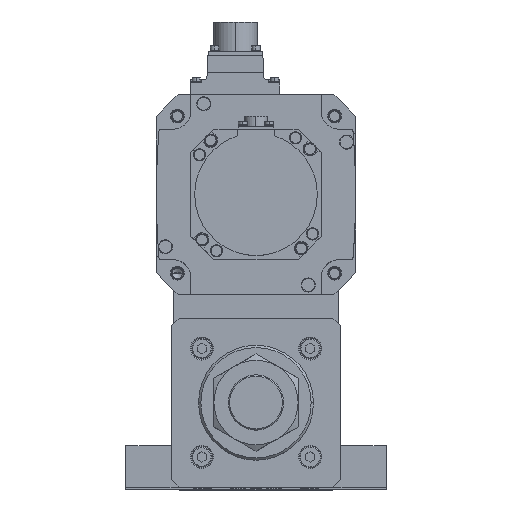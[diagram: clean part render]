
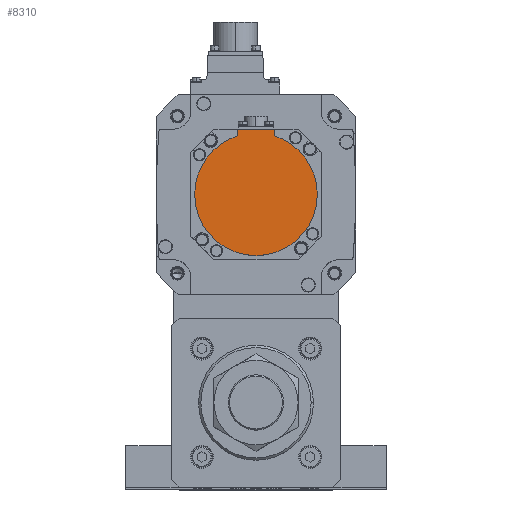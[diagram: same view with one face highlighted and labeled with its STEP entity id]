
A CAD part, top view. The second image highlights one B-rep face of the part: STEP entity #8310.
In plain terms, the highlighted planar face has unit normal (0, 0, 1) as drawn and (0, 0, -1) by its records, which use the part's own axes.
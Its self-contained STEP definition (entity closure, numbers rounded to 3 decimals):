
#395 = EDGE_CURVE ( 'NONE', #8580, #23373, #9390, .T. ) ;
#671 = DIRECTION ( 'NONE',  ( 0., 1., 0. ) ) ;
#898 = ORIENTED_EDGE ( 'NONE', *, *, #20599, .F. ) ;
#2161 = ORIENTED_EDGE ( 'NONE', *, *, #29652, .F. ) ;
#3832 = DIRECTION ( 'NONE',  ( 0., 0., 1. ) ) ;
#4697 = FACE_OUTER_BOUND ( 'NONE', #25880, .T. ) ;
#5194 = CARTESIAN_POINT ( 'NONE',  ( 40., 0., -132.5 ) ) ;
#5292 = VECTOR ( 'NONE', #19600, 1000. ) ;
#5501 = LINE ( 'NONE', #16852, #27903 ) ;
#5804 = EDGE_CURVE ( 'NONE', #27988, #8149, #24688, .T. ) ;
#6093 = CARTESIAN_POINT ( 'NONE',  ( 0., 0., -132.5 ) ) ;
#6151 = CIRCLE ( 'NONE', #17995, 40. ) ;
#6846 = PLANE ( 'NONE',  #25803 ) ;
#7798 = VERTEX_POINT ( 'NONE', #25458 ) ;
#8149 = VERTEX_POINT ( 'NONE', #5194 ) ;
#8310 = ADVANCED_FACE ( 'NONE', ( #4697 ), #6846, .F. ) ;
#8488 = DIRECTION ( 'NONE',  ( 1., 0., 0. ) ) ;
#8580 = VERTEX_POINT ( 'NONE', #33067 ) ;
#9121 = LINE ( 'NONE', #30397, #5292 ) ;
#9390 = CIRCLE ( 'NONE', #19998, 40. ) ;
#10701 = ORIENTED_EDGE ( 'NONE', *, *, #21597, .T. ) ;
#11173 = ORIENTED_EDGE ( 'NONE', *, *, #395, .F. ) ;
#12140 = CARTESIAN_POINT ( 'NONE',  ( -12., -42.5, -132.5 ) ) ;
#12799 = EDGE_CURVE ( 'NONE', #24850, #23373, #5501, .T. ) ;
#12822 = VECTOR ( 'NONE', #19843, 1000. ) ;
#14447 = CARTESIAN_POINT ( 'NONE',  ( 0., 0., -132.5 ) ) ;
#14563 = DIRECTION ( 'NONE',  ( 1., 0., 0. ) ) ;
#16193 = ORIENTED_EDGE ( 'NONE', *, *, #12799, .T. ) ;
#16614 = DIRECTION ( 'NONE',  ( 1., 0., 0. ) ) ;
#16852 = CARTESIAN_POINT ( 'NONE',  ( -12., -40.329, -132.5 ) ) ;
#17948 = DIRECTION ( 'NONE',  ( 1., 0., 0. ) ) ;
#17995 = AXIS2_PLACEMENT_3D ( 'NONE', #6093, #27359, #16614 ) ;
#19563 = DIRECTION ( 'NONE',  ( 0., 0., 1. ) ) ;
#19600 = DIRECTION ( 'NONE',  ( 0., 1., 0. ) ) ;
#19843 = DIRECTION ( 'NONE',  ( -1., 0., 0. ) ) ;
#19998 = AXIS2_PLACEMENT_3D ( 'NONE', #14447, #3832, #14563 ) ;
#20599 = EDGE_CURVE ( 'NONE', #7798, #27988, #9121, .T. ) ;
#21597 = EDGE_CURVE ( 'NONE', #7798, #24850, #33840, .T. ) ;
#22155 = CARTESIAN_POINT ( 'NONE',  ( 0., -42.5, -132.5 ) ) ;
#23373 = VERTEX_POINT ( 'NONE', #28415 ) ;
#24688 = CIRCLE ( 'NONE', #30218, 40. ) ;
#24850 = VERTEX_POINT ( 'NONE', #12140 ) ;
#25200 = CARTESIAN_POINT ( 'NONE',  ( 12., -38.158, -132.5 ) ) ;
#25458 = CARTESIAN_POINT ( 'NONE',  ( 12., -42.5, -132.5 ) ) ;
#25803 = AXIS2_PLACEMENT_3D ( 'NONE', #28323, #26089, #17948 ) ;
#25880 = EDGE_LOOP ( 'NONE', ( #16193, #11173, #2161, #32862, #898, #10701 ) ) ;
#26089 = DIRECTION ( 'NONE',  ( 0., 0., 1. ) ) ;
#27359 = DIRECTION ( 'NONE',  ( 0., 0., 1. ) ) ;
#27903 = VECTOR ( 'NONE', #671, 1000. ) ;
#27988 = VERTEX_POINT ( 'NONE', #25200 ) ;
#28323 = CARTESIAN_POINT ( 'NONE',  ( 0., -1.249, -132.5 ) ) ;
#28415 = CARTESIAN_POINT ( 'NONE',  ( -12., -38.158, -132.5 ) ) ;
#29652 = EDGE_CURVE ( 'NONE', #8149, #8580, #6151, .T. ) ;
#29910 = CARTESIAN_POINT ( 'NONE',  ( 0., 0., -132.5 ) ) ;
#30218 = AXIS2_PLACEMENT_3D ( 'NONE', #29910, #19563, #8488 ) ;
#30397 = CARTESIAN_POINT ( 'NONE',  ( 12., -1.249, -132.5 ) ) ;
#32862 = ORIENTED_EDGE ( 'NONE', *, *, #5804, .F. ) ;
#33067 = CARTESIAN_POINT ( 'NONE',  ( -40., 0., -132.5 ) ) ;
#33840 = LINE ( 'NONE', #22155, #12822 ) ;
